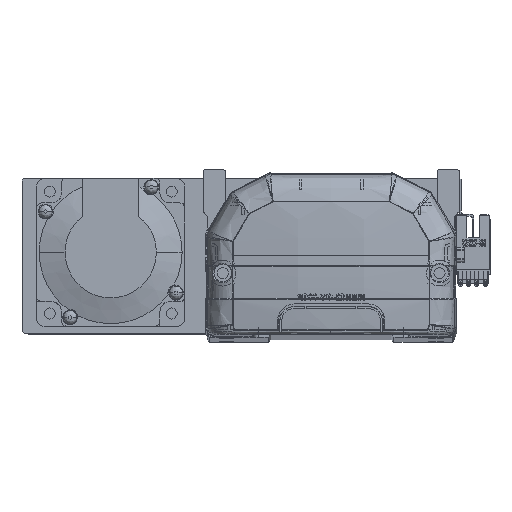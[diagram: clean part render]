
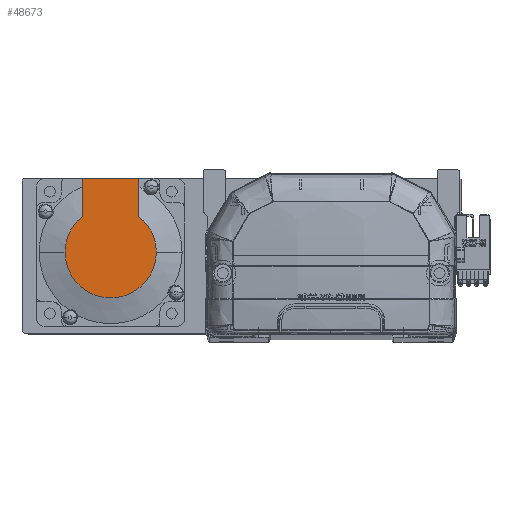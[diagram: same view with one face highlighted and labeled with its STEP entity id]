
A CAD part, top view. The second image highlights one B-rep face of the part: STEP entity #48673.
In plain terms, the highlighted planar face has unit normal (0, 0, 1) as drawn and (-1, 0, 0) by its records, which use the part's own axes.
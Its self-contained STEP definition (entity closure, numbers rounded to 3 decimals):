
#1607 = EDGE_CURVE ( 'NONE', #25267, #31545, #39816, .T. ) ;
#2682 = DIRECTION ( 'NONE',  ( -1., 0., 0. ) ) ;
#2871 = DIRECTION ( 'NONE',  ( 0., 0., -1. ) ) ;
#4373 = DIRECTION ( 'NONE',  ( -1., 0., 0. ) ) ;
#4485 = EDGE_CURVE ( 'NONE', #31048, #31545, #50125, .T. ) ;
#6081 = LINE ( 'NONE', #56140, #18705 ) ;
#6959 = DIRECTION ( 'NONE',  ( 0., 0., -1. ) ) ;
#9932 = CARTESIAN_POINT ( 'NONE',  ( -79., -9.269, 0. ) ) ;
#13370 = ORIENTED_EDGE ( 'NONE', *, *, #41980, .T. ) ;
#15163 = EDGE_CURVE ( 'NONE', #35284, #31048, #6081, .T. ) ;
#18705 = VECTOR ( 'NONE', #42286, 1000. ) ;
#18826 = AXIS2_PLACEMENT_3D ( 'NONE', #9932, #4373, #33509 ) ;
#20678 = CARTESIAN_POINT ( 'NONE',  ( -79., 0., 0. ) ) ;
#20746 = VERTEX_POINT ( 'NONE', #33827 ) ;
#22941 = LINE ( 'NONE', #52806, #53480 ) ;
#23964 = CIRCLE ( 'NONE', #31971, 18.538 ) ;
#25267 = VERTEX_POINT ( 'NONE', #37225 ) ;
#25358 = ORIENTED_EDGE ( 'NONE', *, *, #1607, .T. ) ;
#27668 = CIRCLE ( 'NONE', #46194, 18.538 ) ;
#28847 = DIRECTION ( 'NONE',  ( 0., -1., 0. ) ) ;
#31048 = VERTEX_POINT ( 'NONE', #35702 ) ;
#31545 = VERTEX_POINT ( 'NONE', #32379 ) ;
#31678 = CARTESIAN_POINT ( 'NONE',  ( -79., 30., -11.45 ) ) ;
#31971 = AXIS2_PLACEMENT_3D ( 'NONE', #55238, #2682, #2871 ) ;
#32098 = DIRECTION ( 'NONE',  ( -1., 0., 0. ) ) ;
#32379 = CARTESIAN_POINT ( 'NONE',  ( -79., 14.579, 11.45 ) ) ;
#32628 = FACE_OUTER_BOUND ( 'NONE', #53842, .T. ) ;
#33273 = DIRECTION ( 'NONE',  ( 0., -1., 0. ) ) ;
#33509 = DIRECTION ( 'NONE',  ( 0., 0., 1. ) ) ;
#33827 = CARTESIAN_POINT ( 'NONE',  ( -79., 14.579, -11.45 ) ) ;
#34728 = ORIENTED_EDGE ( 'NONE', *, *, #4485, .F. ) ;
#35284 = VERTEX_POINT ( 'NONE', #31678 ) ;
#35702 = CARTESIAN_POINT ( 'NONE',  ( -79., 30., 11.45 ) ) ;
#36982 = AXIS2_PLACEMENT_3D ( 'NONE', #55392, #32098, #50406 ) ;
#37225 = CARTESIAN_POINT ( 'NONE',  ( -79., 0., 18.538 ) ) ;
#37613 = VERTEX_POINT ( 'NONE', #42478 ) ;
#39816 = CIRCLE ( 'NONE', #36982, 18.538 ) ;
#41980 = EDGE_CURVE ( 'NONE', #35284, #20746, #22941, .T. ) ;
#42286 = DIRECTION ( 'NONE',  ( 0., 0., 1. ) ) ;
#42478 = CARTESIAN_POINT ( 'NONE',  ( -79., 0., -18.538 ) ) ;
#42665 = PLANE ( 'NONE',  #18826 ) ;
#43995 = ORIENTED_EDGE ( 'NONE', *, *, #15163, .F. ) ;
#45075 = DIRECTION ( 'NONE',  ( -1., 0., 0. ) ) ;
#46194 = AXIS2_PLACEMENT_3D ( 'NONE', #20678, #45075, #6959 ) ;
#48673 = ADVANCED_FACE ( 'NONE', ( #32628 ), #42665, .T. ) ;
#50125 = LINE ( 'NONE', #56482, #53149 ) ;
#50406 = DIRECTION ( 'NONE',  ( 0., 0., -1. ) ) ;
#52077 = ORIENTED_EDGE ( 'NONE', *, *, #54486, .T. ) ;
#52806 = CARTESIAN_POINT ( 'NONE',  ( -79., -9.269, -11.45 ) ) ;
#53149 = VECTOR ( 'NONE', #28847, 1000. ) ;
#53480 = VECTOR ( 'NONE', #33273, 1000. ) ;
#53842 = EDGE_LOOP ( 'NONE', ( #13370, #52077, #57300, #25358, #34728, #43995 ) ) ;
#54486 = EDGE_CURVE ( 'NONE', #20746, #37613, #27668, .T. ) ;
#55238 = CARTESIAN_POINT ( 'NONE',  ( -79., 0., 0. ) ) ;
#55392 = CARTESIAN_POINT ( 'NONE',  ( -79., 0., 0. ) ) ;
#56140 = CARTESIAN_POINT ( 'NONE',  ( -79., 30., 27. ) ) ;
#56482 = CARTESIAN_POINT ( 'NONE',  ( -79., 0., 11.45 ) ) ;
#57300 = ORIENTED_EDGE ( 'NONE', *, *, #58848, .T. ) ;
#58848 = EDGE_CURVE ( 'NONE', #37613, #25267, #23964, .T. ) ;
